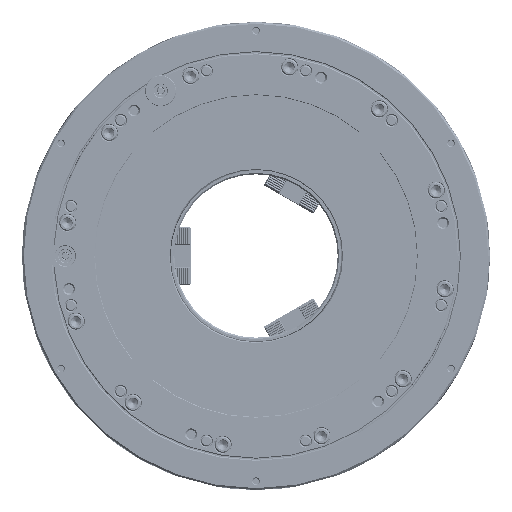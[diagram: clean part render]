
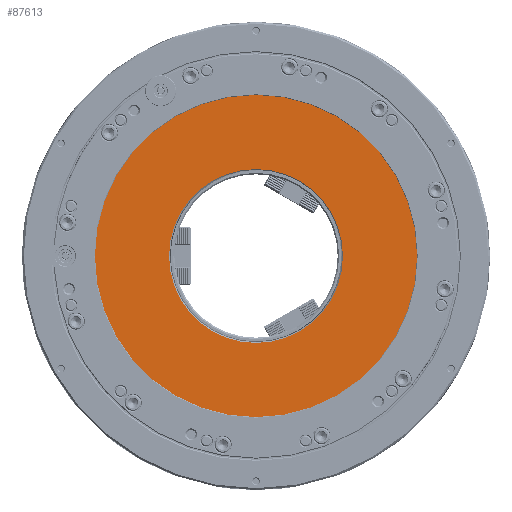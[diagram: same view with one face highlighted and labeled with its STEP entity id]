
A CAD part, left-side view. The second image highlights one B-rep face of the part: STEP entity #87613.
In plain terms, the highlighted planar face has unit normal (-1, 0, 0).
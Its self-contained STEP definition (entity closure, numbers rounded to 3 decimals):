
#4588 = CARTESIAN_POINT ( 'NONE',  ( -17., 0., -182.5 ) ) ;
#5257 = CARTESIAN_POINT ( 'NONE',  ( -17., 0., 0. ) ) ;
#7345 = CARTESIAN_POINT ( 'NONE',  ( -17., 0., 0. ) ) ;
#10271 = CIRCLE ( 'NONE', #149194, 98.5 ) ;
#11203 = VERTEX_POINT ( 'NONE', #104786 ) ;
#19893 = ORIENTED_EDGE ( 'NONE', *, *, #196820, .F. ) ;
#28440 = AXIS2_PLACEMENT_3D ( 'NONE', #39227, #161542, #104425 ) ;
#30979 = AXIS2_PLACEMENT_3D ( 'NONE', #7345, #90321, #76587 ) ;
#39227 = CARTESIAN_POINT ( 'NONE',  ( -17., 182.5, 0. ) ) ;
#39325 = CIRCLE ( 'NONE', #234732, 98.5 ) ;
#56800 = DIRECTION ( 'NONE',  ( 0., 0., -1. ) ) ;
#58218 = EDGE_CURVE ( 'NONE', #11203, #216407, #10271, .T. ) ;
#67822 = DIRECTION ( 'NONE',  ( 0., 0., -1. ) ) ;
#76587 = DIRECTION ( 'NONE',  ( 0., 0., -1. ) ) ;
#78522 = ORIENTED_EDGE ( 'NONE', *, *, #58218, .T. ) ;
#81365 = FACE_BOUND ( 'NONE', #128582, .T. ) ;
#83390 = CARTESIAN_POINT ( 'NONE',  ( -17., 0., 0. ) ) ;
#87613 = ADVANCED_FACE ( 'NONE', ( #81365, #228135 ), #123495, .T. ) ;
#90321 = DIRECTION ( 'NONE',  ( 1., 0., 0. ) ) ;
#100529 = CIRCLE ( 'NONE', #30979, 182.5 ) ;
#100666 = VERTEX_POINT ( 'NONE', #255325 ) ;
#103773 = DIRECTION ( 'NONE',  ( 0., 0., -1. ) ) ;
#104425 = DIRECTION ( 'NONE',  ( 0., 0., 1. ) ) ;
#104786 = CARTESIAN_POINT ( 'NONE',  ( -17., 0., -98.5 ) ) ;
#122811 = DIRECTION ( 'NONE',  ( 1., 0., 0. ) ) ;
#123495 = PLANE ( 'NONE',  #28440 ) ;
#126669 = CIRCLE ( 'NONE', #148397, 182.5 ) ;
#128582 = EDGE_LOOP ( 'NONE', ( #213704, #78522 ) ) ;
#132965 = DIRECTION ( 'NONE',  ( 1., 0., 0. ) ) ;
#137882 = EDGE_LOOP ( 'NONE', ( #19893, #215396 ) ) ;
#141508 = CARTESIAN_POINT ( 'NONE',  ( -17., 0., 98.5 ) ) ;
#142361 = CARTESIAN_POINT ( 'NONE',  ( -17., 0., 0. ) ) ;
#148397 = AXIS2_PLACEMENT_3D ( 'NONE', #5257, #132965, #67822 ) ;
#149194 = AXIS2_PLACEMENT_3D ( 'NONE', #83390, #122811, #103773 ) ;
#161542 = DIRECTION ( 'NONE',  ( -1., 0., 0. ) ) ;
#169361 = EDGE_CURVE ( 'NONE', #216407, #11203, #39325, .T. ) ;
#196820 = EDGE_CURVE ( 'NONE', #257583, #100666, #100529, .T. ) ;
#213704 = ORIENTED_EDGE ( 'NONE', *, *, #169361, .T. ) ;
#215396 = ORIENTED_EDGE ( 'NONE', *, *, #262327, .F. ) ;
#216407 = VERTEX_POINT ( 'NONE', #141508 ) ;
#227963 = DIRECTION ( 'NONE',  ( 1., 0., 0. ) ) ;
#228135 = FACE_OUTER_BOUND ( 'NONE', #137882, .T. ) ;
#234732 = AXIS2_PLACEMENT_3D ( 'NONE', #142361, #227963, #56800 ) ;
#255325 = CARTESIAN_POINT ( 'NONE',  ( -17., 0., 182.5 ) ) ;
#257583 = VERTEX_POINT ( 'NONE', #4588 ) ;
#262327 = EDGE_CURVE ( 'NONE', #100666, #257583, #126669, .T. ) ;
